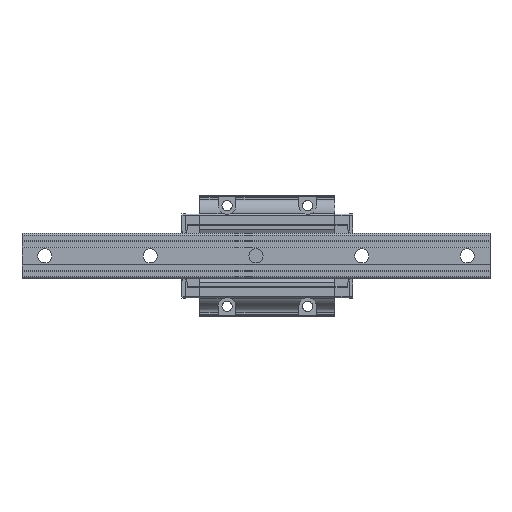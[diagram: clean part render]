
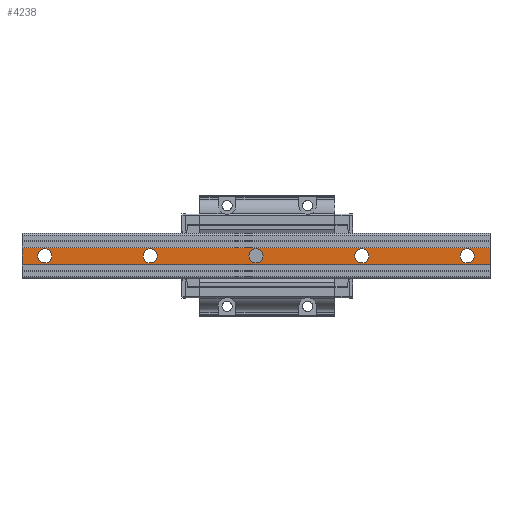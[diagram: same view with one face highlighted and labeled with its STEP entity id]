
A CAD part, front view. The second image highlights one B-rep face of the part: STEP entity #4238.
In plain terms, the highlighted planar face has unit normal (0, -1, 0).
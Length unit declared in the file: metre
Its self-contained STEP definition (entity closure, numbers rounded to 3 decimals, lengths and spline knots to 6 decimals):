
#4238 = ADVANCED_FACE( '', ( #8835, #8836, #8837, #8838, #8839, #8840 ), #8841, .F. );
#8835 = FACE_OUTER_BOUND( '', #18679, .T. );
#8836 = FACE_BOUND( '', #18680, .T. );
#8837 = FACE_BOUND( '', #18681, .T. );
#8838 = FACE_BOUND( '', #18682, .T. );
#8839 = FACE_BOUND( '', #18683, .T. );
#8840 = FACE_BOUND( '', #18684, .T. );
#8841 = PLANE( '', #18685 );
#18679 = EDGE_LOOP( '', ( #33285, #33286, #33287, #33288 ) );
#18680 = EDGE_LOOP( '', ( #33289 ) );
#18681 = EDGE_LOOP( '', ( #33290 ) );
#18682 = EDGE_LOOP( '', ( #33291 ) );
#18683 = EDGE_LOOP( '', ( #33292 ) );
#18684 = EDGE_LOOP( '', ( #33293 ) );
#18685 = AXIS2_PLACEMENT_3D( '', #33294, #33295, #33296 );
#33285 = ORIENTED_EDGE( '', *, *, #41250, .T. );
#33286 = ORIENTED_EDGE( '', *, *, #39595, .T. );
#33287 = ORIENTED_EDGE( '', *, *, #40027, .F. );
#33288 = ORIENTED_EDGE( '', *, *, #39725, .F. );
#33289 = ORIENTED_EDGE( '', *, *, #40042, .T. );
#33290 = ORIENTED_EDGE( '', *, *, #40489, .T. );
#33291 = ORIENTED_EDGE( '', *, *, #40268, .T. );
#33292 = ORIENTED_EDGE( '', *, *, #40363, .T. );
#33293 = ORIENTED_EDGE( '', *, *, #38324, .T. );
#33294 = CARTESIAN_POINT( '', ( 0.465, 0., -0.0083 ) );
#33295 = DIRECTION( '', ( 0., 1., 0. ) );
#33296 = DIRECTION( '', ( 1., 0., 0. ) );
#38324 = EDGE_CURVE( '', #45982, #45982, #45983, .T. );
#39595 = EDGE_CURVE( '', #47890, #47888, #47891, .T. );
#39725 = EDGE_CURVE( '', #48077, #48079, #48080, .T. );
#40027 = EDGE_CURVE( '', #48079, #47888, #48495, .T. );
#40042 = EDGE_CURVE( '', #48514, #48514, #48515, .T. );
#40268 = EDGE_CURVE( '', #48817, #48817, #48818, .T. );
#40363 = EDGE_CURVE( '', #48936, #48936, #48937, .T. );
#40489 = EDGE_CURVE( '', #49098, #49098, #49099, .T. );
#41250 = EDGE_CURVE( '', #48077, #47890, #49998, .T. );
#45982 = VERTEX_POINT( '', #59223 );
#45983 = CIRCLE( '', #59224, 0.007 );
#47888 = VERTEX_POINT( '', #63227 );
#47890 = VERTEX_POINT( '', #63230 );
#47891 = LINE( '', #63231, #63232 );
#48077 = VERTEX_POINT( '', #63625 );
#48079 = VERTEX_POINT( '', #63628 );
#48080 = LINE( '', #63629, #63630 );
#48495 = LINE( '', #64746, #64747 );
#48514 = VERTEX_POINT( '', #64823 );
#48515 = CIRCLE( '', #64824, 0.007 );
#48817 = VERTEX_POINT( '', #65693 );
#48818 = CIRCLE( '', #65694, 0.007 );
#48936 = VERTEX_POINT( '', #65944 );
#48937 = CIRCLE( '', #65945, 0.007 );
#49098 = VERTEX_POINT( '', #66288 );
#49099 = CIRCLE( '', #66289, 0.007 );
#49998 = LINE( '', #68095, #68096 );
#59223 = CARTESIAN_POINT( '', ( 0.3375, 0., -0.00692 ) );
#59224 = AXIS2_PLACEMENT_3D( '', #71463, #71464, #71465 );
#63227 = CARTESIAN_POINT( '', ( 0., 0., -0.0083 ) );
#63230 = CARTESIAN_POINT( '', ( 0., 0., 0.0083 ) );
#63231 = CARTESIAN_POINT( '', ( 0., 0., -0.0083 ) );
#63232 = VECTOR( '', #72649, 1. );
#63625 = CARTESIAN_POINT( '', ( 0.465, 0., 0.0083 ) );
#63628 = CARTESIAN_POINT( '', ( 0.465, 0., -0.0083 ) );
#63629 = CARTESIAN_POINT( '', ( 0.465, 0., -0.0083 ) );
#63630 = VECTOR( '', #72772, 1. );
#64746 = CARTESIAN_POINT( '', ( 0.465, 0., -0.0083 ) );
#64747 = VECTOR( '', #72982, 1. );
#64823 = CARTESIAN_POINT( '', ( 0.4425, 0., -0.00692 ) );
#64824 = AXIS2_PLACEMENT_3D( '', #72988, #72989, #72990 );
#65693 = CARTESIAN_POINT( '', ( 0.1275, 0., -0.00692 ) );
#65694 = AXIS2_PLACEMENT_3D( '', #73148, #73149, #73150 );
#65944 = CARTESIAN_POINT( '', ( 0.0225, 0., -0.00692 ) );
#65945 = AXIS2_PLACEMENT_3D( '', #73226, #73227, #73228 );
#66288 = CARTESIAN_POINT( '', ( 0.2325, 0., -0.00692 ) );
#66289 = AXIS2_PLACEMENT_3D( '', #73321, #73322, #73323 );
#68095 = CARTESIAN_POINT( '', ( 0.465, 0., 0.0083 ) );
#68096 = VECTOR( '', #73833, 1. );
#71463 = CARTESIAN_POINT( '', ( 0.3375, 0., 0.00008 ) );
#71464 = DIRECTION( '', ( 0., 1., 0. ) );
#71465 = DIRECTION( '', ( 0., 0., -1. ) );
#72649 = DIRECTION( '', ( 0., 0., -1. ) );
#72772 = DIRECTION( '', ( 0., 0., -1. ) );
#72982 = DIRECTION( '', ( -1., 0., 0. ) );
#72988 = CARTESIAN_POINT( '', ( 0.4425, 0., 0.00008 ) );
#72989 = DIRECTION( '', ( 0., 1., 0. ) );
#72990 = DIRECTION( '', ( 0., 0., -1. ) );
#73148 = CARTESIAN_POINT( '', ( 0.1275, 0., 0.00008 ) );
#73149 = DIRECTION( '', ( 0., 1., 0. ) );
#73150 = DIRECTION( '', ( 0., 0., -1. ) );
#73226 = CARTESIAN_POINT( '', ( 0.0225, 0., 0.00008 ) );
#73227 = DIRECTION( '', ( 0., 1., 0. ) );
#73228 = DIRECTION( '', ( 0., 0., -1. ) );
#73321 = CARTESIAN_POINT( '', ( 0.2325, 0., 0.00008 ) );
#73322 = DIRECTION( '', ( 0., 1., 0. ) );
#73323 = DIRECTION( '', ( 0., 0., -1. ) );
#73833 = DIRECTION( '', ( -1., 0., 0. ) );
